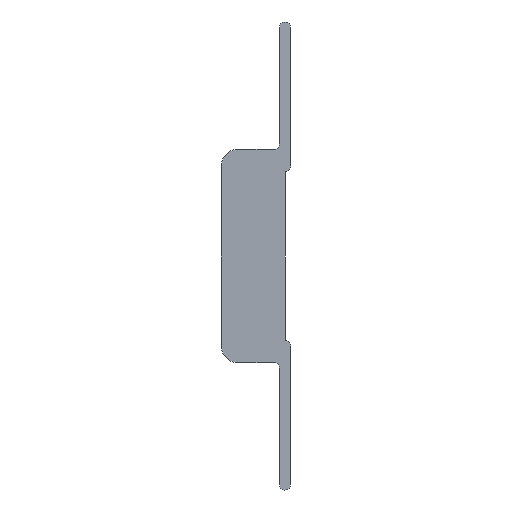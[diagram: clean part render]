
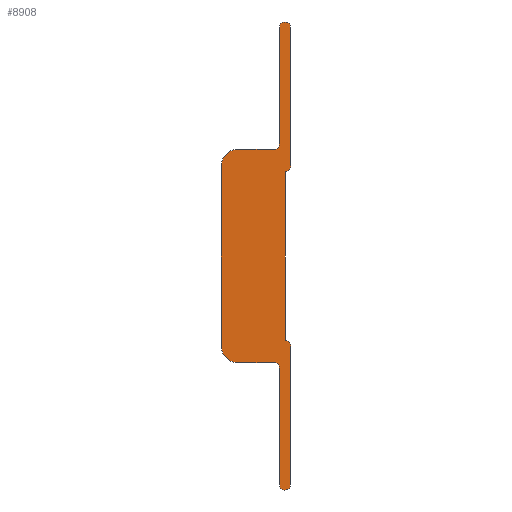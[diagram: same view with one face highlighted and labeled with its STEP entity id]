
A CAD part, left-side view. The second image highlights one B-rep face of the part: STEP entity #8908.
In plain terms, the highlighted planar face has unit normal (-1, 0, 0).
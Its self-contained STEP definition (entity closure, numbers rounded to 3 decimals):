
#914=PLANE('',#9226);
#1388=FACE_OUTER_BOUND('',#1912,.T.);
#1912=EDGE_LOOP('',(#8407,#8408,#8409,#8410,#8411,#8412,#8413,#8414,#8415,
#8416,#8417,#8418,#8419,#8420,#8421,#8422));
#1914=CIRCLE('',#8925,0.508);
#1923=CIRCLE('',#9186,0.508);
#1925=CIRCLE('',#9190,0.508);
#1927=CIRCLE('',#9194,1.524);
#1929=CIRCLE('',#9198,1.524);
#1931=CIRCLE('',#9202,0.508);
#1933=CIRCLE('',#9206,0.508);
#1935=CIRCLE('',#9210,0.508);
#2761=LINE('',#16472,#3639);
#2765=LINE('',#16484,#3643);
#2769=LINE('',#16496,#3647);
#2773=LINE('',#16508,#3651);
#2777=LINE('',#16520,#3655);
#2781=LINE('',#16532,#3659);
#2785=LINE('',#16544,#3663);
#2814=LINE('',#16635,#3692);
#3639=VECTOR('',#10577,10.);
#3643=VECTOR('',#10589,10.);
#3647=VECTOR('',#10601,10.);
#3651=VECTOR('',#10613,10.);
#3655=VECTOR('',#10625,10.);
#3659=VECTOR('',#10637,10.);
#3663=VECTOR('',#10649,10.);
#3692=VECTOR('',#10710,10.);
#3694=VERTEX_POINT('',#10718);
#3696=VERTEX_POINT('',#10722);
#4512=VERTEX_POINT('',#16471);
#4514=VERTEX_POINT('',#16477);
#4516=VERTEX_POINT('',#16483);
#4518=VERTEX_POINT('',#16489);
#4520=VERTEX_POINT('',#16495);
#4522=VERTEX_POINT('',#16501);
#4524=VERTEX_POINT('',#16507);
#4526=VERTEX_POINT('',#16513);
#4528=VERTEX_POINT('',#16519);
#4530=VERTEX_POINT('',#16525);
#4532=VERTEX_POINT('',#16531);
#4534=VERTEX_POINT('',#16537);
#4536=VERTEX_POINT('',#16543);
#4539=VERTEX_POINT('',#16550);
#4556=EDGE_CURVE('',#3696,#3694,#1914,.T.);
#5773=EDGE_CURVE('',#3696,#4512,#2761,.T.);
#5776=EDGE_CURVE('',#4514,#4512,#1923,.T.);
#5779=EDGE_CURVE('',#4514,#4516,#2765,.T.);
#5782=EDGE_CURVE('',#4516,#4518,#1925,.T.);
#5785=EDGE_CURVE('',#4520,#4518,#2769,.T.);
#5788=EDGE_CURVE('',#4522,#4520,#1927,.T.);
#5791=EDGE_CURVE('',#4522,#4524,#2773,.T.);
#5794=EDGE_CURVE('',#4526,#4524,#1929,.T.);
#5797=EDGE_CURVE('',#4526,#4528,#2777,.T.);
#5800=EDGE_CURVE('',#4528,#4530,#1931,.T.);
#5803=EDGE_CURVE('',#4530,#4532,#2781,.T.);
#5806=EDGE_CURVE('',#4534,#4532,#1933,.T.);
#5809=EDGE_CURVE('',#4534,#4536,#2785,.T.);
#5813=EDGE_CURVE('',#4539,#4536,#1935,.T.);
#5842=EDGE_CURVE('',#4539,#3694,#2814,.T.);
#8407=ORIENTED_EDGE('',*,*,#4556,.F.);
#8408=ORIENTED_EDGE('',*,*,#5773,.T.);
#8409=ORIENTED_EDGE('',*,*,#5776,.F.);
#8410=ORIENTED_EDGE('',*,*,#5779,.T.);
#8411=ORIENTED_EDGE('',*,*,#5782,.T.);
#8412=ORIENTED_EDGE('',*,*,#5785,.F.);
#8413=ORIENTED_EDGE('',*,*,#5788,.F.);
#8414=ORIENTED_EDGE('',*,*,#5791,.T.);
#8415=ORIENTED_EDGE('',*,*,#5794,.F.);
#8416=ORIENTED_EDGE('',*,*,#5797,.T.);
#8417=ORIENTED_EDGE('',*,*,#5800,.T.);
#8418=ORIENTED_EDGE('',*,*,#5803,.T.);
#8419=ORIENTED_EDGE('',*,*,#5806,.F.);
#8420=ORIENTED_EDGE('',*,*,#5809,.T.);
#8421=ORIENTED_EDGE('',*,*,#5813,.F.);
#8422=ORIENTED_EDGE('',*,*,#5842,.T.);
#8908=ADVANCED_FACE('',(#1388),#914,.F.);
#8925=AXIS2_PLACEMENT_3D('',#10724,#9235,#9236);
#9186=AXIS2_PLACEMENT_3D('',#16478,#10582,#10583);
#9190=AXIS2_PLACEMENT_3D('',#16490,#10594,#10595);
#9194=AXIS2_PLACEMENT_3D('',#16502,#10606,#10607);
#9198=AXIS2_PLACEMENT_3D('',#16514,#10618,#10619);
#9202=AXIS2_PLACEMENT_3D('',#16526,#10630,#10631);
#9206=AXIS2_PLACEMENT_3D('',#16538,#10642,#10643);
#9210=AXIS2_PLACEMENT_3D('',#16552,#10655,#10656);
#9226=AXIS2_PLACEMENT_3D('',#16637,#10713,#10714);
#9235=DIRECTION('center_axis',(1.,0.,0.));
#9236=DIRECTION('ref_axis',(0.,0.,-1.));
#10577=DIRECTION('',(0.,0.,1.));
#10582=DIRECTION('center_axis',(1.,0.,0.));
#10583=DIRECTION('ref_axis',(0.,0.,-1.));
#10589=DIRECTION('',(0.,0.,-1.));
#10594=DIRECTION('center_axis',(1.,0.,0.));
#10595=DIRECTION('ref_axis',(0.,-1.,0.));
#10601=DIRECTION('',(0.,-1.,0.));
#10606=DIRECTION('center_axis',(1.,0.,0.));
#10607=DIRECTION('ref_axis',(0.,0.333,-0.943));
#10613=DIRECTION('',(0.,0.,-1.));
#10618=DIRECTION('center_axis',(1.,0.,0.));
#10619=DIRECTION('ref_axis',(0.,-0.943,-0.333));
#10625=DIRECTION('',(0.,-1.,0.));
#10630=DIRECTION('center_axis',(1.,0.,0.));
#10631=DIRECTION('ref_axis',(0.,0.,1.));
#10637=DIRECTION('',(0.,0.,-1.));
#10642=DIRECTION('center_axis',(1.,0.,0.));
#10643=DIRECTION('ref_axis',(0.,0.,-1.));
#10649=DIRECTION('',(0.,0.,1.));
#10655=DIRECTION('center_axis',(1.,0.,0.));
#10656=DIRECTION('ref_axis',(0.,0.,-1.));
#10710=DIRECTION('',(0.,0.,1.));
#10713=DIRECTION('center_axis',(1.,0.,0.));
#10714=DIRECTION('ref_axis',(0.,0.,-1.));
#10718=CARTESIAN_POINT('',(0.,0.,-13.208));
#10722=CARTESIAN_POINT('',(0.,-0.508,-12.7));
#10724=CARTESIAN_POINT('Origin',(0.,0.,-12.7));
#16471=CARTESIAN_POINT('',(0.,-0.508,0.));
#16472=CARTESIAN_POINT('',(0.,-0.508,-12.7));
#16477=CARTESIAN_POINT('',(0.,0.508,0.));
#16478=CARTESIAN_POINT('Origin',(0.,0.,0.));
#16483=CARTESIAN_POINT('',(0.,0.508,-10.668));
#16484=CARTESIAN_POINT('',(0.,0.508,0.));
#16489=CARTESIAN_POINT('',(0.,1.016,-11.176));
#16490=CARTESIAN_POINT('Origin',(0.,1.016,-10.668));
#16495=CARTESIAN_POINT('',(0.,4.318,-11.176));
#16496=CARTESIAN_POINT('',(0.,4.318,-11.176));
#16501=CARTESIAN_POINT('',(0.,5.842,-12.7));
#16502=CARTESIAN_POINT('Origin',(0.,4.318,-12.7));
#16507=CARTESIAN_POINT('',(0.,5.842,-29.21));
#16508=CARTESIAN_POINT('',(0.,5.842,-12.7));
#16513=CARTESIAN_POINT('',(0.,4.318,-30.734));
#16514=CARTESIAN_POINT('Origin',(0.,4.318,-29.21));
#16519=CARTESIAN_POINT('',(0.,1.016,-30.734));
#16520=CARTESIAN_POINT('',(0.,4.318,-30.734));
#16525=CARTESIAN_POINT('',(0.,0.508,-31.242));
#16526=CARTESIAN_POINT('Origin',(0.,1.016,-31.242));
#16531=CARTESIAN_POINT('',(0.,0.508,-41.91));
#16532=CARTESIAN_POINT('',(0.,0.508,-29.21));
#16537=CARTESIAN_POINT('',(0.,-0.508,-41.91));
#16538=CARTESIAN_POINT('Origin',(0.,0.,-41.91));
#16543=CARTESIAN_POINT('',(0.,-0.508,-29.21));
#16544=CARTESIAN_POINT('',(0.,-0.508,-41.91));
#16550=CARTESIAN_POINT('',(0.,0.,-28.702));
#16552=CARTESIAN_POINT('Origin',(0.,0.,-29.21));
#16635=CARTESIAN_POINT('',(0.,0.,-13.208));
#16637=CARTESIAN_POINT('Origin',(0.,2.413,-20.955));
